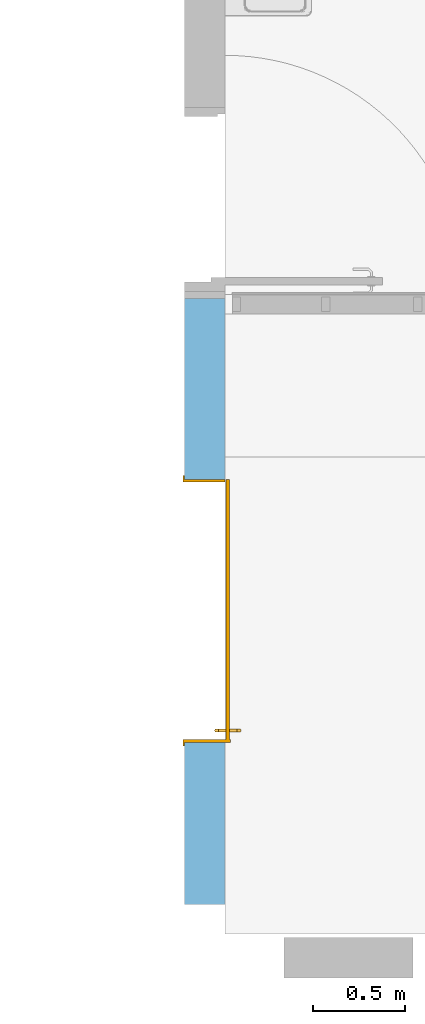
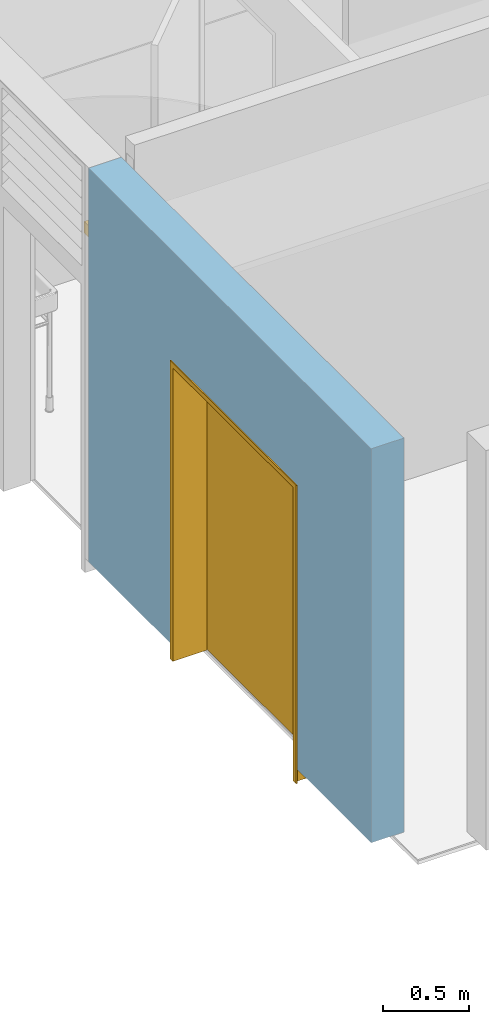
# One storey, part 8 of 15: 1 door, 1 opening, plus 1 element that does not belong to this part.
"""IFC2X3 building model written with IfcOpenShell, lengths in metres."""

from ifc_helpers import new_model, entity, si_unit, converted_unit, derived_unit, direction, frame, frame_2d, origin, place, context, subcontext, project, spatial, rectangle, extrude, faceted_brep, source, transform, mapped, material, material_list, layer, layer_set, layer_usage, type_object, type_shapes, element, fill, save


model = new_model("IFC2X3")

# Units and contexts
model_context = context("Model", 3, precision=1e-05, world=origin(), true_north=direction((6.12303176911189e-17, 1.0)))
body_context = subcontext(model_context, "Body", "Model", "MODEL_VIEW")
ifc_project = project(units=[si_unit("LENGTHUNIT", "METRE"), si_unit("AREAUNIT", "SQUARE_METRE"), si_unit("VOLUMEUNIT", "CUBIC_METRE"), converted_unit("PLANEANGLEUNIT", "DEGREE", entity("IfcRatioMeasure", 0.0174532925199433), si_unit("PLANEANGLEUNIT", "RADIAN"), dimensions=[0, 0, 0, 0, 0, 0, 0]), si_unit("MASSUNIT", "GRAM", prefix="KILO"), derived_unit("MASSDENSITYUNIT", [(si_unit("MASSUNIT", "GRAM", prefix="KILO"), 1), (si_unit("LENGTHUNIT", "METRE"), -3)]), si_unit("TIMEUNIT", "SECOND"), si_unit("FREQUENCYUNIT", "HERTZ"), si_unit("THERMODYNAMICTEMPERATUREUNIT", "DEGREE_CELSIUS"), derived_unit("THERMALTRANSMITTANCEUNIT", [(si_unit("MASSUNIT", "GRAM", prefix="KILO"), 1), (si_unit("THERMODYNAMICTEMPERATUREUNIT", "KELVIN"), -1), (si_unit("TIMEUNIT", "SECOND"), -3)]), derived_unit("VOLUMETRICFLOWRATEUNIT", [(si_unit("LENGTHUNIT", "METRE"), 3), (si_unit("TIMEUNIT", "SECOND"), -1)]), si_unit("ELECTRICCURRENTUNIT", "AMPERE"), si_unit("ELECTRICVOLTAGEUNIT", "VOLT"), si_unit("POWERUNIT", "WATT"), si_unit("FORCEUNIT", "NEWTON", prefix="KILO"), si_unit("ILLUMINANCEUNIT", "LUX"), si_unit("LUMINOUSFLUXUNIT", "LUMEN"), si_unit("LUMINOUSINTENSITYUNIT", "CANDELA"), derived_unit("USERDEFINED", [(si_unit("MASSUNIT", "GRAM", prefix="KILO"), -1), (si_unit("LENGTHUNIT", "METRE"), -2), (si_unit("TIMEUNIT", "SECOND"), 3), (si_unit("LUMINOUSFLUXUNIT", "LUMEN"), 1)]), derived_unit("LINEARVELOCITYUNIT", [(si_unit("LENGTHUNIT", "METRE"), 1), (si_unit("TIMEUNIT", "SECOND"), -1)]), si_unit("PRESSUREUNIT", "PASCAL"), derived_unit("USERDEFINED", [(si_unit("LENGTHUNIT", "METRE"), -2), (si_unit("MASSUNIT", "GRAM", prefix="KILO"), 1), (si_unit("TIMEUNIT", "SECOND"), -2)])], contexts=[model_context])

# Site, building, storey
site_placement = place(None, origin())
site = spatial("IfcSite", under=ifc_project, at=site_placement, Name="Surface", CompositionType="ELEMENT")
building_placement = place(site_placement, origin())
building = spatial("IfcBuilding", under=site, at=building_placement, Name="ExPREF", CompositionType="ELEMENT")
storey_placement = place(building_placement, frame((0.0, 0.0, 7.83)))
storey = spatial("IfcBuildingStorey", under=building, at=storey_placement, Name="R+2", CompositionType="ELEMENT", Elevation=7.83)

# Wall, opening, door
ifc_material_1 = material(Name="AA-BTC")
ifc_layer = layer(ifc_material_1, 0.22)
ifc_layer_set = layer_set([ifc_layer], Name="Mur de base:A-prémur BTC")
ifc_layer_usage = layer_usage(ifc_layer_set, "AXIS2", "NEGATIVE", 0.11)
wall_type = type_object("IfcWallType", Name="Mur de base:A-prémur BTC", PredefinedType="STANDARD", material=ifc_layer_set)
wall_placement = place(storey_placement, frame((45.269743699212, -193.069651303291, 0.1), z_axis=(0.0, 0.0, 1.0), x_axis=(0.0, 1.0, 0.0)))
wall = element("IfcWallStandardCase", 1, at=wall_placement, inside=storey, type_object=wall_type, material=ifc_layer_usage, Name="Mur de base:A-prémur BTC", ObjectType="Mur de base:A-prémur BTC", context=body_context, shape_type="SweptSolid", body=[
    extrude(rectangle(XDim=3.29158167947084, YDim=0.220000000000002, at=frame_2d((1.64579083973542, 0.0), x_axis=(-1.0, 0.0))), origin(), (0.0, 0.0, 1.0), 2.8),
])
opening_placement = place(wall_placement, frame((0.880790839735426, -0.110000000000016, -0.0999999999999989)))
opening = element("IfcOpeningElement", 2, at=opening_placement, cuts=wall, Name="Coulissante - Apparente:1.4m x 2.1m:1", ObjectType="Opening", context=body_context, shape_type="SweptSolid", body=[
    extrude(rectangle(XDim=2.09999999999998, YDim=1.43, at=frame_2d((1.04999999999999, 0.714999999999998), x_axis=(1.0, 0.0))), frame((0.0, 0.0, 0.0), z_axis=(0.0, 1.0, 0.0), x_axis=(0.0, 0.0, 1.0)), (0.0, 0.0, 1.0), 0.22),
])
ifc_material_2 = material(Name="Porte - Poignée")
ifc_material_3 = material(Name="AA-Aluminium")
ifc_material_4 = material(Name="AA-vitrage")
ifc_material_list_1 = material_list([ifc_material_2, ifc_material_3, ifc_material_4])
ifc_material_list_2 = material_list([ifc_material_2, ifc_material_3, ifc_material_4])
door_style = type_object("IfcDoorStyle", Name="1.4m x 2.1m", ConstructionType="NOTDEFINED", OperationType="SLIDING_TO_RIGHT", ParameterTakesPrecedence=False, Sizeable=False, material=ifc_material_list_2)
shared_shape = source(origin(), body_context, "Body", "Brep", [
    faceted_brep([(0.336967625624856, -0.00499999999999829, 0.97068339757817), (0.332606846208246, -0.00499999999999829, 0.969), (0.332606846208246, -0.00499999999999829, 0.951000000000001), (0.336967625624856, -0.00499999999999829, 0.94931660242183), (0.341606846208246, -0.00499999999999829, 0.94874401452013), (0.346246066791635, -0.00499999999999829, 0.94931660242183), (0.350606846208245, -0.00499999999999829, 0.951000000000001), (0.350606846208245, -0.00499999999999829, 0.969), (0.346246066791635, -0.00499999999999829, 0.97068339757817), (0.341606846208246, -0.00499999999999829, 0.971255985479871), (0.336967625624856, -0.00499999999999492, 0.850683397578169), (0.332606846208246, -0.0049999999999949, 0.848999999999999), (0.332606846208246, -0.0049999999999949, 0.831), (0.336967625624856, -0.00499999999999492, 0.829316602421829), (0.341606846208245, -0.00499999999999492, 0.828744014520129), (0.346246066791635, -0.00499999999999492, 0.829316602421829), (0.350606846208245, -0.00499999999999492, 0.831), (0.350606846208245, -0.00499999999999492, 0.849), (0.346246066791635, -0.00499999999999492, 0.850683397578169), (0.341606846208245, -0.00499999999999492, 0.85125598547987), (0.350606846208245, 0.0337279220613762, 0.831), (0.350606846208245, 0.0540000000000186, 0.851272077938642), (0.350606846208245, 0.0540000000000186, 0.948727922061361), (0.350606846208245, 0.0337279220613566, 0.969), (0.350606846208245, 0.0262720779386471, 0.951000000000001), (0.350606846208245, 0.0360000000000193, 0.941272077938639), (0.350606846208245, 0.0360000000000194, 0.858727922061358), (0.350606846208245, 0.0262720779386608, 0.848999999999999), (0.346246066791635, 0.0344252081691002, 0.97068339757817), (0.341606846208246, 0.0346623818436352, 0.971255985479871), (0.336967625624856, 0.0344252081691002, 0.970683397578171), (0.332606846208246, 0.0337279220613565, 0.969), (0.332606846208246, 0.0540000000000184, 0.948727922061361), (0.332606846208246, 0.0540000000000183, 0.851272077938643), (0.332606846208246, 0.0337279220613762, 0.831), (0.332606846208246, 0.0262720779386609, 0.848999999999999), (0.332606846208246, 0.0360000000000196, 0.858727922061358), (0.332606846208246, 0.0360000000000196, 0.94127207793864), (0.332606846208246, 0.0262720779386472, 0.951000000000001), (0.336967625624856, 0.0255747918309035, 0.949316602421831), (0.341606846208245, 0.0253376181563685, 0.94874401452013), (0.346246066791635, 0.0255747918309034, 0.94931660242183), (0.346246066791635, 0.055683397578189, 0.949425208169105), (0.341606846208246, 0.0562559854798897, 0.949662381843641), (0.336967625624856, 0.055683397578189, 0.949425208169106), (0.336967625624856, 0.0343166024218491, 0.940574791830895), (0.341606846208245, 0.0337440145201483, 0.940337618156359), (0.346246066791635, 0.0343166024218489, 0.940574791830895), (0.346246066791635, 0.0556833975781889, 0.850574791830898), (0.341606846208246, 0.0562559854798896, 0.850337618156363), (0.336967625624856, 0.055683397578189, 0.850574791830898), (0.336967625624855, 0.0343166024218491, 0.859425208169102), (0.341606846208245, 0.0337440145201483, 0.859662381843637), (0.346246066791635, 0.0343166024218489, 0.859425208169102), (0.346246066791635, 0.0344252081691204, 0.829316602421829), (0.341606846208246, 0.0346623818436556, 0.828744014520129), (0.336967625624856, 0.0344252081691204, 0.829316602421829), (0.336967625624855, 0.0255747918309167, 0.850683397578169), (0.341606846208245, 0.0253376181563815, 0.85125598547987), (0.346246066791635, 0.0255747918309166, 0.850683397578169)], [[[0, 1, 2, 3, 4, 5, 6, 7, 8, 9]], [[10, 11, 12, 13, 14, 15, 16, 17, 18, 19]], [[16, 20, 21, 22, 23, 7, 6, 24, 25, 26, 27, 17]], [[23, 28, 8, 7]], [[8, 28, 29, 9]], [[30, 0, 9, 29]], [[0, 30, 31, 1]], [[1, 31, 32, 33, 34, 12, 11, 35, 36, 37, 38, 2]], [[38, 39, 3, 2]], [[4, 3, 39, 40]], [[41, 24, 6, 5]], [[41, 5, 4, 40]], [[22, 42, 28, 23]], [[28, 42, 43, 29]], [[43, 44, 30, 29]], [[44, 32, 31, 30]], [[37, 45, 39, 38]], [[39, 45, 46, 40]], [[47, 25, 24, 41]], [[41, 40, 46, 47]], [[21, 48, 42, 22]], [[42, 48, 49, 43]], [[49, 50, 44, 43]], [[50, 33, 32, 44]], [[36, 51, 45, 37]], [[46, 45, 51, 52]], [[53, 26, 25, 47]], [[53, 47, 46, 52]], [[20, 54, 48, 21]], [[48, 54, 55, 49]], [[55, 56, 50, 49]], [[56, 34, 33, 50]], [[35, 57, 51, 36]], [[51, 57, 58, 52]], [[59, 27, 26, 53]], [[53, 52, 58, 59]], [[16, 15, 54, 20]], [[55, 54, 15, 14]], [[13, 12, 34, 56]], [[13, 56, 55, 14]], [[11, 10, 57, 35]], [[58, 57, 10, 19]], [[18, 17, 27, 59]], [[59, 58, 19, 18]]]),
    faceted_brep([(0.336967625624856, -0.0249999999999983, 0.97068339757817), (0.341606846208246, -0.0249999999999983, 0.971255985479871), (0.346246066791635, -0.0249999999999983, 0.97068339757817), (0.350606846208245, -0.0249999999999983, 0.969), (0.350606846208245, -0.0249999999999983, 0.951000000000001), (0.346246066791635, -0.0249999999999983, 0.94931660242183), (0.341606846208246, -0.0249999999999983, 0.94874401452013), (0.336967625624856, -0.0249999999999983, 0.94931660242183), (0.332606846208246, -0.0249999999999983, 0.951000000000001), (0.332606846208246, -0.0249999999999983, 0.969), (0.341606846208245, -0.0249999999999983, 0.828744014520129), (0.336967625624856, -0.0249999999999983, 0.829316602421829), (0.332606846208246, -0.0249999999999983, 0.831), (0.332606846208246, -0.0249999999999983, 0.848999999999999), (0.336967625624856, -0.0249999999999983, 0.850683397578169), (0.341606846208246, -0.0249999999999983, 0.85125598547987), (0.346246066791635, -0.0249999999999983, 0.850683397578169), (0.350606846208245, -0.0249999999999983, 0.848999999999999), (0.350606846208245, -0.0249999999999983, 0.831), (0.346246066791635, -0.0249999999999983, 0.829316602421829), (0.332606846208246, -0.0637279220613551, 0.969), (0.336967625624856, -0.0644252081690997, 0.97068339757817), (0.341606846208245, -0.0646623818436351, 0.971255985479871), (0.346246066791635, -0.0644252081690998, 0.970683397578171), (0.350606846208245, -0.0637279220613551, 0.969), (0.350606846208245, -0.0839999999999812, 0.948727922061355), (0.350606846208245, -0.0839999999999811, 0.851272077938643), (0.350606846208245, -0.063727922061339, 0.831), (0.350606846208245, -0.0562720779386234, 0.848999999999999), (0.350606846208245, -0.0659999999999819, 0.858727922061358), (0.350606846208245, -0.0659999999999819, 0.941272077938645), (0.350606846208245, -0.0562720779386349, 0.951000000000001), (0.346246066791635, -0.0555747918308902, 0.94931660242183), (0.341606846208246, -0.0553376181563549, 0.94874401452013), (0.336967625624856, -0.0555747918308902, 0.94931660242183), (0.332606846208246, -0.056272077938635, 0.951000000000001), (0.332606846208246, -0.0637279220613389, 0.831), (0.332606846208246, -0.0839999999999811, 0.851272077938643), (0.332606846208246, -0.0839999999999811, 0.948727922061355), (0.332606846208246, -0.0659999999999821, 0.941272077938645), (0.332606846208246, -0.065999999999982, 0.858727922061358), (0.332606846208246, -0.0562720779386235, 0.848999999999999), (0.336967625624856, -0.0856833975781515, 0.949425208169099), (0.341606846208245, -0.0862559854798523, 0.949662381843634), (0.346246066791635, -0.0856833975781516, 0.949425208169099), (0.346246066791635, -0.0643166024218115, 0.940574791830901), (0.341606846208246, -0.0637440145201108, 0.940337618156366), (0.336967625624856, -0.0643166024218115, 0.940574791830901), (0.336967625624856, -0.0856833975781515, 0.850574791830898), (0.341606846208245, -0.0862559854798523, 0.850337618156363), (0.346246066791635, -0.0856833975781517, 0.850574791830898), (0.346246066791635, -0.0643166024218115, 0.859425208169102), (0.341606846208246, -0.0637440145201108, 0.859662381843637), (0.336967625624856, -0.0643166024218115, 0.859425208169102), (0.336967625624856, -0.0644252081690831, 0.829316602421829), (0.341606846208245, -0.0646623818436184, 0.828744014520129), (0.346246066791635, -0.0644252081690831, 0.829316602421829), (0.346246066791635, -0.0555747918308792, 0.850683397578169), (0.341606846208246, -0.055337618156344, 0.85125598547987), (0.336967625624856, -0.0555747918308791, 0.850683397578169)], [[[0, 1, 2, 3, 4, 5, 6, 7, 8, 9]], [[10, 11, 12, 13, 14, 15, 16, 17, 18, 19]], [[20, 21, 0, 9]], [[0, 21, 22, 1]], [[23, 2, 1, 22]], [[2, 23, 24, 3]], [[3, 24, 25, 26, 27, 18, 17, 28, 29, 30, 31, 4]], [[31, 32, 5, 4]], [[6, 5, 32, 33]], [[34, 35, 8, 7]], [[34, 7, 6, 33]], [[12, 36, 37, 38, 20, 9, 8, 35, 39, 40, 41, 13]], [[38, 42, 21, 20]], [[21, 42, 43, 22]], [[43, 44, 23, 22]], [[44, 25, 24, 23]], [[30, 45, 32, 31]], [[32, 45, 46, 33]], [[47, 39, 35, 34]], [[34, 33, 46, 47]], [[37, 48, 42, 38]], [[42, 48, 49, 43]], [[49, 50, 44, 43]], [[50, 26, 25, 44]], [[29, 51, 45, 30]], [[46, 45, 51, 52]], [[53, 40, 39, 47]], [[53, 47, 46, 52]], [[36, 54, 48, 37]], [[48, 54, 55, 49]], [[55, 56, 50, 49]], [[56, 27, 26, 50]], [[28, 57, 51, 29]], [[51, 57, 58, 52]], [[59, 41, 40, 53]], [[53, 52, 58, 59]], [[12, 11, 54, 36]], [[55, 54, 11, 10]], [[19, 18, 27, 56]], [[19, 56, 55, 10]], [[17, 16, 57, 28]], [[58, 57, 16, 15]], [[14, 13, 41, 59]], [[59, 58, 15, 14]]]),
    faceted_brep([(0.276606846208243, -0.0299999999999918, 2.09999999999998), (0.291606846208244, -0.0299999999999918, 2.09999999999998), (0.291606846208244, 0.0, 2.09999999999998), (0.276606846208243, 0.0, 2.09999999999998), (0.276606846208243, -0.0299999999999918, 0.0), (0.276606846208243, 0.0, 0.0), (0.291606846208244, 0.0, 0.0), (0.291606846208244, -0.0299999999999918, 0.0)], [[[0, 1, 2, 3]], [[4, 5, 6, 7]], [[3, 5, 4, 0]], [[2, 6, 5, 3]], [[1, 7, 6, 2]], [[0, 4, 7, 1]]]),
    faceted_brep([(1.70660684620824, 0.22000000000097, 0.0), (1.70660684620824, 0.0, 0.0), (1.69160684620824, 0.0, 0.0), (1.69160684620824, 0.22800000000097, 0.0), (1.72660684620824, 0.22800000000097, 0.0), (1.72660684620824, 0.22000000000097, 0.0), (1.72660684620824, 0.22000000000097, 2.11999999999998), (0.256606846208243, 0.22000000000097, 2.11999999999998), (0.256606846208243, 0.22000000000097, 0.0), (0.276606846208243, 0.22000000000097, 0.0), (0.276606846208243, 0.22000000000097, 2.09999999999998), (1.70660684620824, 0.22000000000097, 2.09999999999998), (1.72660684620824, 0.22800000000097, 2.11999999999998), (1.69160684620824, 0.22800000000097, 2.08499999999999), (0.29160684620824, 0.22800000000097, 2.08499999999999), (0.29160684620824, 0.22800000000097, 0.0), (0.256606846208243, 0.22800000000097, 0.0), (0.256606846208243, 0.22800000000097, 2.11999999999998), (1.69160684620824, 0.0, 2.08499999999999), (1.70660684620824, 0.0, 2.09999999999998), (0.276606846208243, 0.0, 2.09999999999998), (0.276606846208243, 0.0, 0.0), (0.29160684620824, 0.0, 0.0), (0.29160684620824, 0.0, 2.08499999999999)], [[[0, 1, 2, 3, 4, 5]], [[5, 6, 7, 8, 9, 10, 11, 0]], [[4, 12, 6, 5]], [[3, 13, 14, 15, 16, 17, 12, 4]], [[2, 18, 13, 3]], [[1, 19, 20, 21, 22, 23, 18, 2]], [[0, 11, 19, 1]], [[12, 17, 7, 6]], [[18, 23, 14, 13]], [[11, 10, 20, 19]], [[9, 8, 16, 15, 22, 21]], [[17, 16, 8, 7]], [[23, 22, 15, 14]], [[10, 9, 21, 20]]]),
    faceted_brep([(0.291606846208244, -0.0249999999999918, 2.09999999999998), (1.70660684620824, -0.0249999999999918, 2.09999999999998), (1.70660684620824, -0.00499999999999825, 2.09999999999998), (0.291606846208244, -0.00499999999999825, 2.09999999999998), (0.291606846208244, -0.0249999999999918, 0.0), (0.291606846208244, -0.00499999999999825, 0.0), (1.70660684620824, -0.00499999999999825, 0.0), (1.70660684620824, -0.0249999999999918, 0.0)], [[[0, 1, 2, 3]], [[4, 5, 6, 7]], [[3, 5, 4, 0]], [[2, 6, 5, 3]], [[1, 7, 6, 2]], [[0, 4, 7, 1]]]),
    faceted_brep([(0.276606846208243, -0.0299999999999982, 2.17999999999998), (0.276606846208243, -0.0299999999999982, 2.09999999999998), (3.12160684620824, -0.0299999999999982, 2.09999999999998), (3.12160684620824, -0.0299999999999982, 2.17999999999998), (0.276606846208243, 0.0, 2.17999999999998), (3.12160684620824, 0.0, 2.17999999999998), (3.12160684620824, 0.0, 2.09999999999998), (0.276606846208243, 0.0, 2.09999999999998)], [[[0, 1, 2, 3]], [[4, 5, 6, 7]], [[3, 5, 4, 0]], [[2, 6, 5, 3]], [[1, 7, 6, 2]], [[0, 4, 7, 1]]]),
])
type_shapes(door_style, [shared_shape])
door_placement = place(opening_placement, frame((-0.276606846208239, 0.0, 0.0)))
door = element("IfcDoor", 3, at=door_placement, inside=storey, type_object=door_style, material=ifc_material_list_1, Name="Coulissante - Apparente:1.4m x 2.1m", ObjectType="1.4m x 2.1m", OverallHeight=2.09999999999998, OverallWidth=1.42999999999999, context=body_context, shape_type="MappedRepresentation", body=[
    mapped(shared_shape, transform((0.0, 0.0, 0.0), scale=1.0)),
])
fill(opening, door)

save(model, "model.ifc")
